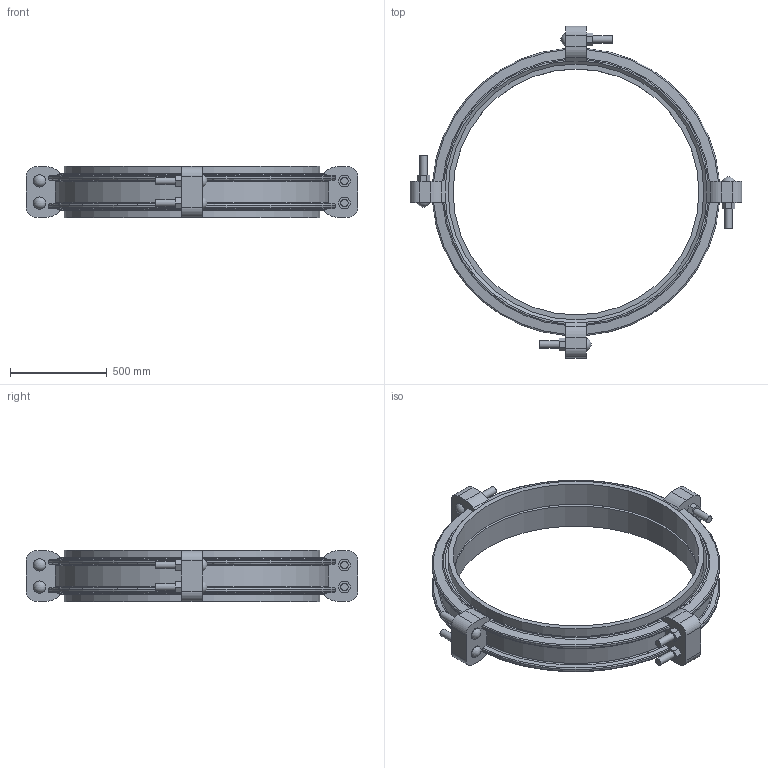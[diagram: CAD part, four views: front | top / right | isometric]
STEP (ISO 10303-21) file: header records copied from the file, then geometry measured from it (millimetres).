
FILE_DESCRIPTION(/* description */ ('VIC COUPLING FLEX STYLE W77 AGS VIC-RING ','CAx-IF Rec.Pracs.---Representation and Presentation of Product Manufacturing Information (PMI)---4.0---2014-10-13'),/* implementation_level */ '2;1');
FILE_NAME(/* name */ 'C:\Users\Vjadhav\AppData\Roaming\Autodesk\ApplicationPlugins\Victaulic.Temp\A52\Victaulic_Vic-Ring_Coupling Flexible_Style W77 (AGR)_52 (1300).stp',/* time_stamp */ '2021-12-20T11:06:34+06:00',/* author */ ('Vjadhav'),/* organization */ ('Victaulic'),/* preprocessor_version */ 'ST-DEVELOPER v17.2',/* originating_system */ 'Autodesk Inventor 2019',/* authorisation */ '');
FILE_SCHEMA (('AP242_MANAGED_MODEL_BASED_3D_ENGINEERING_MIM_LF { 1 0 10303 442 1 1 4 }'));
Length unit declared in the file: inch
Products named in the file (3): W77 VR-52.0; W77-VR-52.0; W77 VR-52.0_1
Assembly tree (3 placements, depth 2):
  W77 VR-52.0
    W77-VR-52.0
    W77 VR-52.0_1  x2
Bounding box: 1714.5 x 1714.5 x 265.94 mm (x, y, z)
Volume: 88638051.7 mm3; surface area: 5831785.7 mm2
Topology: 3 solids, 11 shells, 279 faces, 745 edges, 512 vertices
Faces by surface type: plane 138, cylinder 83, torus 32, cone 18, sphere 8
Full cylindrical faces by diameter (mm): 38.1 x16, 63.5 x8, 1270 x2, 1301.75 x1, 1320.8 x4
Entity records: 10061 total; most frequent: CARTESIAN_POINT 2672, ORIENTED_EDGE 1470, DIRECTION 1457, EDGE_CURVE 735, AXIS2_PLACEMENT_3D 537, VERTEX_POINT 504, LINE 383, VECTOR 383
